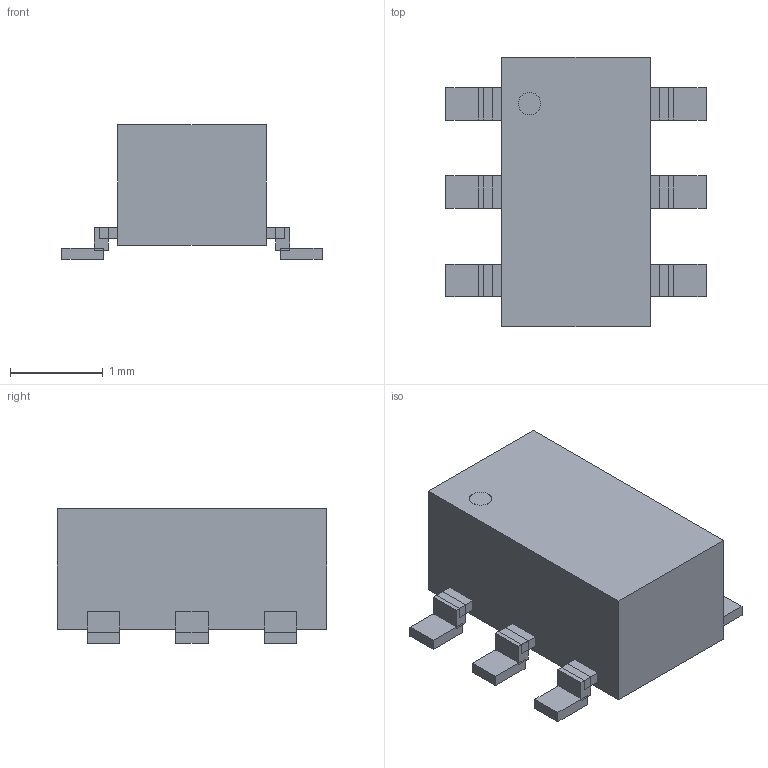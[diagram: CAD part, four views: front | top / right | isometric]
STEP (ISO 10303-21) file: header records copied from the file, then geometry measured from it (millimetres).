
FILE_DESCRIPTION(('Open CASCADE Model'),'2;1');
FILE_NAME('Open CASCADE Shape Model','2026-10-09T15:40:50',('Author'),( 'Open CASCADE'),'Open CASCADE STEP processor 7.7','Open CASCADE 7.7' ,'Unknown');
FILE_SCHEMA(('AUTOMOTIVE_DESIGN { 1 0 10303 214 1 1 1 1 }'));
Length unit declared in the file: millimetre
Products named in the file (20): DBV0006A maximum-height molded body; Lead foot; Simplified gullwing heel; Lead at body; Pin1 marker - simplified
Bounding box: 2.8 x 2.9 x 1.45 mm (x, y, z)
Volume: 6.3 mm3; surface area: 28.4 mm2
Topology: 20 solids, 20 shells, 117 faces, 231 edges, 154 vertices
Faces by surface type: plane 116, cylinder 1
Full cylindrical faces by diameter (mm): 0.24 x1
Entity records: 6315 total; most frequent: CARTESIAN_POINT 965, DIRECTION 931, LINE 689, VECTOR 689, ORIENTED_EDGE 462, PCURVE 462, DEFINITIONAL_REPRESENTATION 462, EDGE_CURVE 231
